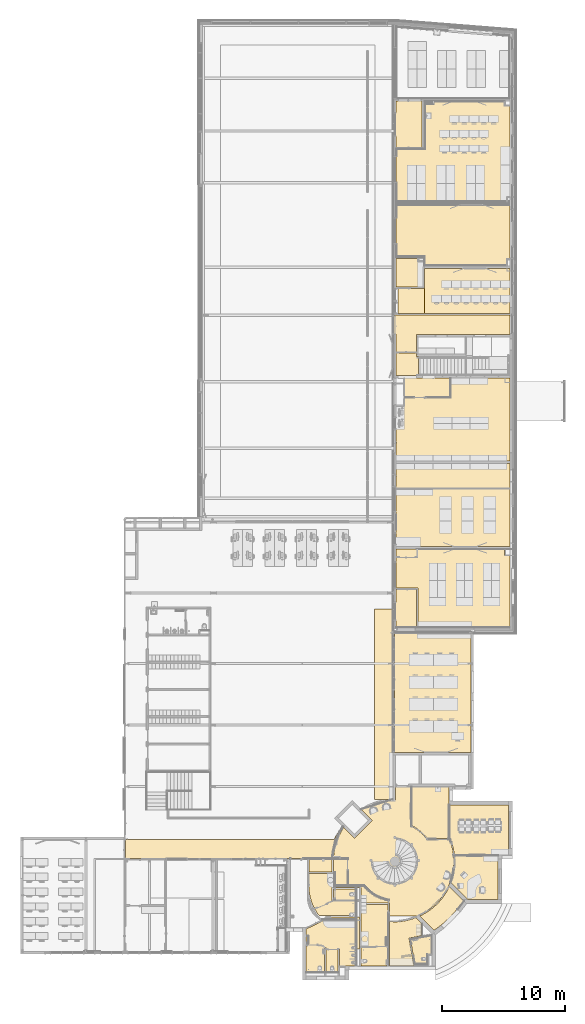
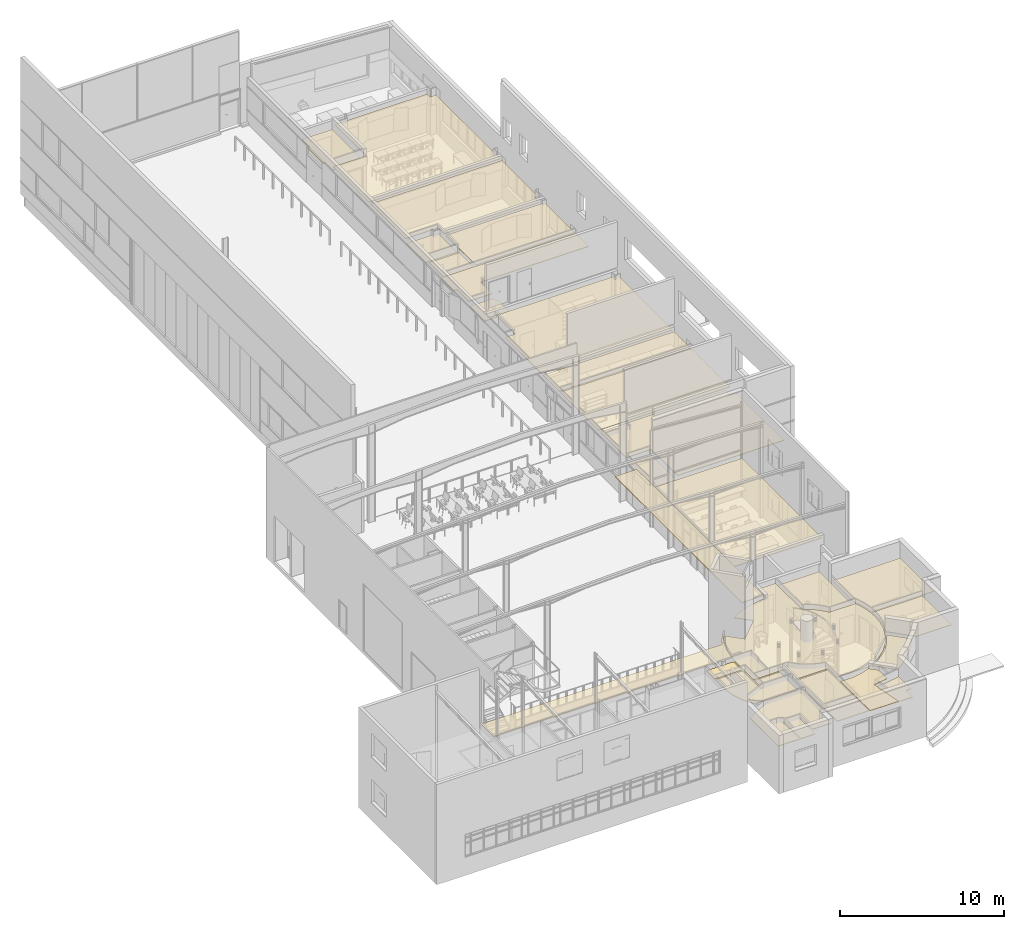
# One storey, part 108 of 137: 29 coverings.
"""IFC2X3 building model written with IfcOpenShell, lengths in centimetres."""

from ifc_helpers import new_model, entity, si_unit, converted_unit, derived_unit, direction, frame, frame_2d, origin, origin_2d_with_axis, place, context, subcontext, project, spatial, polyline, circle_curve, parameter, trimmed, segment, composite_curve, rectangle, outline, extrude, material, layer, layer_set, layer_usage, element, save


model = new_model("IFC2X3")

# Units and contexts
model_context = context("Model", 3, precision=0.001, world=origin(), true_north=direction((6.12303176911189e-17, 1.0)))
body_context = subcontext(model_context, "Body", "Model", "MODEL_VIEW")
ifc_project = project(units=[si_unit("LENGTHUNIT", "METRE", prefix="CENTI"), si_unit("AREAUNIT", "SQUARE_METRE"), si_unit("VOLUMEUNIT", "CUBIC_METRE"), converted_unit("PLANEANGLEUNIT", "DEGREE", entity("IfcRatioMeasure", 0.0174532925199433), si_unit("PLANEANGLEUNIT", "RADIAN"), dimensions=[0, 0, 0, 0, 0, 0, 0]), si_unit("MASSUNIT", "GRAM", prefix="KILO"), si_unit("TIMEUNIT", "SECOND"), si_unit("FREQUENCYUNIT", "HERTZ"), si_unit("THERMODYNAMICTEMPERATUREUNIT", "DEGREE_CELSIUS"), derived_unit("THERMALTRANSMITTANCEUNIT", [(si_unit("MASSUNIT", "GRAM", prefix="KILO"), 1), (si_unit("THERMODYNAMICTEMPERATUREUNIT", "KELVIN"), -1), (si_unit("TIMEUNIT", "SECOND"), -3)]), derived_unit("VOLUMETRICFLOWRATEUNIT", [(si_unit("LENGTHUNIT", "METRE"), 3), (si_unit("TIMEUNIT", "SECOND"), -1)]), si_unit("ELECTRICCURRENTUNIT", "AMPERE"), si_unit("ELECTRICVOLTAGEUNIT", "VOLT"), si_unit("POWERUNIT", "WATT"), si_unit("FORCEUNIT", "NEWTON", prefix="KILO"), si_unit("ILLUMINANCEUNIT", "LUX"), si_unit("LUMINOUSFLUXUNIT", "LUMEN"), si_unit("LUMINOUSINTENSITYUNIT", "CANDELA"), derived_unit("USERDEFINED", [(si_unit("MASSUNIT", "GRAM", prefix="KILO"), -1), (si_unit("LENGTHUNIT", "METRE"), -2), (si_unit("TIMEUNIT", "SECOND"), 3), (si_unit("LUMINOUSFLUXUNIT", "LUMEN"), 1)]), derived_unit("LINEARVELOCITYUNIT", [(si_unit("LENGTHUNIT", "METRE"), 1), (si_unit("TIMEUNIT", "SECOND"), -1)]), si_unit("PRESSUREUNIT", "PASCAL"), derived_unit("USERDEFINED", [(si_unit("LENGTHUNIT", "METRE"), -2), (si_unit("MASSUNIT", "GRAM", prefix="KILO"), 1), (si_unit("TIMEUNIT", "SECOND"), -2)])], contexts=[model_context])

# Site, building, storey, space
site_placement = place(None, frame((8.62739174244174, -249.285249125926, 0.0)))
site = spatial("IfcSite", under=ifc_project, at=site_placement, Name="Default", CompositionType="ELEMENT")
building_placement = place(site_placement, origin())
building = spatial("IfcBuilding", under=site, at=building_placement, CompositionType="ELEMENT")
storey_placement = place(building_placement, origin())
storey = spatial("IfcBuildingStorey", under=building, at=storey_placement, Name="RDC", CompositionType="ELEMENT", Elevation=-8.82465566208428e-11)
space_1_placement = place(storey_placement, origin())
space_1 = spatial("IfcSpace", under=storey, at=space_1_placement, Name="084", CompositionType="ELEMENT", InteriorOrExteriorSpace="INTERNAL")

# Covering
ifc_material_1 = material(Name="Maçonnerie - Isolant_MU")
ifc_layer_1 = layer(ifc_material_1, 5.0)
ifc_layer_set_1 = layer_set([ifc_layer_1], Name="Plafond composé:Plafond avec isolation")
ifc_layer_usage_1 = layer_usage(ifc_layer_set_1, "AXIS3", "NEGATIVE", 0.0)
covering_1_placement = place(space_1_placement, origin())
element("IfcCovering", 1, at=covering_1_placement, inside=space_1, material=ifc_layer_usage_1, Name="Plafond composé:Plafond avec isolation", ObjectType="Plafond composé:Plafond avec isolation", PredefinedType="CEILING", context=body_context, shape_type="SweptSolid", body=[
    extrude(outline(composite_curve([segment(polyline([(-170.400000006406, -200.035961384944), (-60.3999999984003, -200.035961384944)]), True, "CONTINUOUS"), segment(trimmed(circle_curve(frame_2d((-67.8958975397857, 188.256204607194), x_axis=(0.0, 1.0)), 388.364512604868), [parameter(181.105945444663)], [parameter(218.073956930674)], True, "PARAMETER"), True, "CONTINUOUS"), segment(polyline([(171.600000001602, -117.47032304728), (171.600000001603, 179.964038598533)]), True, "CONTINUOUS"), segment(polyline([(171.600000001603, 179.964038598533), (49.6000000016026, 179.964038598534)]), True, "CONTINUOUS"), segment(polyline([(49.6000000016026, 179.964038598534), (-45.3999999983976, 179.964038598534)]), True, "CONTINUOUS"), segment(polyline([(-45.3999999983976, 179.964038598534), (-45.3999999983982, -0.587467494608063)]), True, "CONTINUOUS"), segment(polyline([(-45.3999999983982, -0.587467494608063), (49.6000000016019, -0.587467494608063)]), True, "CONTINUOUS"), segment(polyline([(49.6000000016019, -0.587467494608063), (49.6000000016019, -10.5874674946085)]), True, "CONTINUOUS"), segment(polyline([(49.6000000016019, -10.5874674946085), (-170.400000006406, -10.5874674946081)]), True, "CONTINUOUS"), segment(polyline([(-170.400000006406, -10.5874674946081), (-170.400000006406, -200.035961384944)]), True, "CONTINUOUS")], self_intersect=False)), frame((2544.94078919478, 485.728568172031, 280.0), z_axis=(0.0, 0.0, 1.0), x_axis=(0.0, -1.0, 0.0)), (0.0, 0.0, 1.0), 5.0),
])

# Space
space_2_placement = place(storey_placement, origin())
space_2 = spatial("IfcSpace", under=storey, at=space_2_placement, Name="105", CompositionType="ELEMENT", InteriorOrExteriorSpace="INTERNAL")

# Coverings
ifc_layer_usage_2 = layer_usage(ifc_layer_set_1, "AXIS3", "NEGATIVE", 0.0)
covering_2_placement = place(space_2_placement, origin())
element("IfcCovering", 2, at=covering_2_placement, inside=space_2, material=ifc_layer_usage_2, Name="Plafond composé:Plafond avec isolation", ObjectType="Plafond composé:Plafond avec isolation", PredefinedType="CEILING", context=body_context, shape_type="SweptSolid", body=[
    extrude(rectangle(XDim=189.448493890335, YDim=101.869999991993, at=frame_2d((0.0, -5.6843418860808e-14), x_axis=(1.0, 0.0))), frame((2439.62907475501, 717.063568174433, 280.0)), (0.0, 0.0, 1.0), 5.0),
])
ifc_layer_usage_3 = layer_usage(ifc_layer_set_1, "AXIS3", "NEGATIVE", 0.0)
covering_3_placement = place(storey_placement, origin())
element("IfcCovering", 3, at=covering_3_placement, inside=storey, material=ifc_layer_usage_3, Name="Plafond composé:Plafond avec isolation", ObjectType="Plafond composé:Plafond avec isolation", PredefinedType="CEILING", context=body_context, shape_type="SweptSolid", body=[
    extrude(outline(polyline([(-247.384861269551, -153.323130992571), (-97.3848612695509, -153.323130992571), (-97.3848612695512, 48.3381318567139), (-87.3848612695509, 48.3381318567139), (-87.3848612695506, -153.323130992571), (12.6151387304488, -153.323130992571), (12.6151387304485, 34.6768690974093), (22.6151387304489, 34.6768690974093), (22.6151387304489, -103.323130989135), (69.6151387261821, -103.323130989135), (85.615138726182, -103.323130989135), (154.615138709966, -103.323130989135), (154.615138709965, 34.6768690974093), (186.615138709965, 34.6768690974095), (186.615138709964, 296.825229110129), (-43.8422195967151, 296.825229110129), (-247.384861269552, 197.550849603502), (-247.384861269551, -153.323130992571)])), frame((2570.28968908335, 7.30333906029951, 280.0)), (0.0, 0.0, 1.0), 5.0),
])
ifc_layer_usage_4 = layer_usage(ifc_layer_set_1, "AXIS3", "NEGATIVE", 0.0)
covering_4_placement = place(storey_placement, origin())
element("IfcCovering", 4, at=covering_4_placement, inside=storey, material=ifc_layer_usage_4, Name="Plafond composé:Plafond avec isolation", ObjectType="Plafond composé:Plafond avec isolation", PredefinedType="CEILING", context=body_context, shape_type="SweptSolid", body=[
    extrude(rectangle(XDim=221.500000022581, YDim=501.29166378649, at=frame_2d((2.20268248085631e-13, 0.0), x_axis=(1.0, 0.0))), frame((2877.65482780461, 154.626039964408, 280.0), z_axis=(0.0, 0.0, 1.0), x_axis=(-1.0, 0.0, 0.0)), (0.0, 0.0, 1.0), 5.0),
])

# Space
space_3_placement = place(storey_placement, origin())
space_3 = spatial("IfcSpace", under=storey, at=space_3_placement, Name="103", CompositionType="ELEMENT", InteriorOrExteriorSpace="INTERNAL")

# Coverings
ifc_layer_usage_5 = layer_usage(ifc_layer_set_1, "AXIS3", "NEGATIVE", 0.0)
covering_5_placement = place(space_3_placement, origin())
element("IfcCovering", 5, at=covering_5_placement, inside=space_3, material=ifc_layer_usage_5, Name="Plafond composé:Plafond avec isolation", ObjectType="Plafond composé:Plafond avec isolation", PredefinedType="CEILING", context=body_context, shape_type="SweptSolid", body=[
    extrude(outline(polyline([(28.699635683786, -18.9072696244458), (63.6996356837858, -18.9072696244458), (63.6996356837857, 133.142160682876), (-110.154885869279, 102.486917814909), (-74.6436568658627, -98.907269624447), (28.6996356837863, -98.9072696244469), (28.699635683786, -18.9072696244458)])), frame((3280.20519212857, 19.8874776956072, 260.0)), (0.0, 0.0, 1.0), 5.0),
])
ifc_layer_usage_6 = layer_usage(ifc_layer_set_1, "AXIS3", "NEGATIVE", 0.0)
covering_6_placement = place(storey_placement, origin())
element("IfcCovering", 6, at=covering_6_placement, inside=storey, material=ifc_layer_usage_6, Name="Plafond composé:Plafond avec isolation", ObjectType="Plafond composé:Plafond avec isolation", PredefinedType="CEILING", context=body_context, shape_type="SweptSolid", body=[
    extrude(outline(composite_curve([segment(polyline([(-81.8949231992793, -169.293541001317), (82.8194099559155, -169.293541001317)]), True, "CONTINUOUS"), segment(trimmed(circle_curve(frame_2d((-751.83879933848, -6.70645899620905), x_axis=(0.707106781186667, 0.707106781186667)), 850.346332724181), [parameter(303.977117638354)], [parameter(326.945108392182)], True, "PARAMETER"), True, "CONTINUOUS"), segment(polyline([(80.094422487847, 169.293541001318), (-81.0189092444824, 169.293541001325)]), True, "CONTINUOUS"), segment(trimmed(circle_curve(frame_2d((-537.383806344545, 1.17960294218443), x_axis=(0.707106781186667, 0.707106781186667)), 486.344749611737), [parameter(294.480928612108)], [parameter(335.222593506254)], True, "PARAMETER"), False, "CONTINUOUS")], self_intersect=False)), frame((3423.1965860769, 372.016394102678, 280.0), z_axis=(0.0, 0.0, 1.0), x_axis=(0.707106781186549, -0.707106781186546, 0.0)), (0.0, 0.0, 1.0), 5.0),
])
ifc_layer_usage_7 = layer_usage(ifc_layer_set_1, "AXIS3", "NEGATIVE", 0.0)
covering_7_placement = place(storey_placement, origin())
element("IfcCovering", 7, at=covering_7_placement, inside=storey, material=ifc_layer_usage_7, Name="Plafond composé:Plafond avec isolation", ObjectType="Plafond composé:Plafond avec isolation", PredefinedType="CEILING", context=body_context, shape_type="SweptSolid", body=[
    extrude(outline(composite_curve([segment(polyline([(-197.726755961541, -185.615429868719), (157.984173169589, -185.615429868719)]), True, "CONTINUOUS"), segment(trimmed(circle_curve(frame_2d((642.135114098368, -139.473454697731), x_axis=(-1.0, 0.0)), 486.344749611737), [parameter(339.296909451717)], [parameter(5.44412736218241)], True, "PARAMETER"), False, "CONTINUOUS"), segment(polyline([(187.196094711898, 32.4617194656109), (50.2732440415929, 169.384570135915)]), True, "CONTINUOUS"), segment(polyline([(50.2732440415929, 169.384570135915), (-197.726755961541, 169.384570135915)]), True, "CONTINUOUS"), segment(polyline([(-197.726755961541, 169.384570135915), (-197.726755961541, -185.615429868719)]), True, "CONTINUOUS")], self_intersect=False)), frame((3686.17807184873, 613.364778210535, 280.0), z_axis=(0.0, 0.0, 1.0), x_axis=(-1.0, 0.0, 0.0)), (0.0, 0.0, 1.0), 5.0),
])
ifc_layer_usage_8 = layer_usage(ifc_layer_set_1, "AXIS3", "NEGATIVE", 0.0)
covering_8_placement = place(storey_placement, origin())
element("IfcCovering", 8, at=covering_8_placement, inside=storey, material=ifc_layer_usage_8, Name="Plafond composé:Plafond avec isolation", ObjectType="Plafond composé:Plafond avec isolation", PredefinedType="CEILING", context=body_context, shape_type="SweptSolid", body=[
    extrude(outline(composite_curve([segment(polyline([(-243.738200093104, -248.099837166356), (234.261799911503, -248.099837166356)]), True, "CONTINUOUS"), segment(polyline([(234.261799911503, -248.099837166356), (234.261799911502, 16.4991858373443)]), True, "CONTINUOUS"), segment(trimmed(circle_curve(frame_2d((679.12366996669, 213.042138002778), x_axis=(-1.0, 0.0)), 486.344749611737), [parameter(6.27312747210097)], [parameter(23.8361625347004)], True, "PARAMETER"), False, "CONTINUOUS"), segment(polyline([(195.691000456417, 159.90016283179), (-176.738200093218, 159.90016283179)]), True, "CONTINUOUS"), segment(polyline([(-176.738200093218, 159.90016283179), (-243.738200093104, 159.90016283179)]), True, "CONTINUOUS"), segment(polyline([(-243.738200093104, 159.90016283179), (-243.738200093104, -248.099837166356)]), True, "CONTINUOUS")], self_intersect=False)), frame((3723.16662771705, 965.880370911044, 280.0), z_axis=(0.0, 0.0, 1.0), x_axis=(-1.0, 0.0, 0.0)), (0.0, 0.0, 1.0), 5.0),
])
ifc_layer_usage_9 = layer_usage(ifc_layer_set_1, "AXIS3", "NEGATIVE", 0.0)
covering_9_placement = place(storey_placement, origin())
element("IfcCovering", 9, at=covering_9_placement, inside=storey, material=ifc_layer_usage_9, Name="Plafond composé:Plafond avec isolation", ObjectType="Plafond composé:Plafond avec isolation", PredefinedType="CEILING", context=body_context, shape_type="SweptSolid", body=[
    extrude(outline(composite_curve([segment(polyline([(-232.892468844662, 145.095907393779), (-232.892468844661, -154.904092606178)]), True, "CONTINUOUS"), segment(polyline([(-232.892468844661, -154.904092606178), (190.584115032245, -154.904092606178)]), True, "CONTINUOUS"), segment(polyline([(190.584115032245, -154.904092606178), (190.584115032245, 19.6163704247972)]), True, "CONTINUOUS"), segment(trimmed(circle_curve(frame_2d((375.476663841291, 283.242517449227), x_axis=(0.0, -1.0)), 322.00000000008), [parameter(295.405810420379)], [parameter(324.95634072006)], True, "PARAMETER"), False, "CONTINUOUS"), segment(polyline([(84.6167076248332, 145.095907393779), (-232.892468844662, 145.095907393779)]), True, "CONTINUOUS")], self_intersect=False)), frame((3327.00073519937, 1129.08773922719, 260.0), z_axis=(0.0, 0.0, -1.0), x_axis=(0.0, -1.0, 0.0)), (0.0, 0.0, -1.0), 5.0),
])
ifc_layer_usage_10 = layer_usage(ifc_layer_set_1, "AXIS3", "NEGATIVE", 0.0)
covering_10_placement = place(storey_placement, origin())
element("IfcCovering", 10, at=covering_10_placement, inside=storey, material=ifc_layer_usage_10, Name="Plafond composé:Plafond avec isolation", ObjectType="Plafond composé:Plafond avec isolation", PredefinedType="CEILING", context=body_context, shape_type="SweptSolid", body=[
    extrude(outline(composite_curve([segment(polyline([(-513.889026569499, -103.934470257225), (-513.889026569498, -230.081080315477)]), True, "CONTINUOUS"), segment(polyline([(-513.889026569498, -230.081080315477), (-191.920953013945, -230.081080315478)]), True, "CONTINUOUS"), segment(trimmed(circle_curve(frame_2d((94.4801061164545, -98.9344702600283), x_axis=(0.0, -1.0)), 315.00000000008), [parameter(294.603633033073)], [parameter(325.615883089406)], True, "PARAMETER"), True, "CONTINUOUS"), segment(polyline([(-83.4124426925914, -358.894546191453), (-83.412442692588, -544.022612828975)]), True, "CONTINUOUS"), segment(trimmed(circle_curve(frame_2d((95.2529485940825, -99.2192102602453), x_axis=(0.0, -1.0)), 479.344749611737), [parameter(338.116017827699)], [parameter(67.4937223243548)], True, "PARAMETER"), True, "CONTINUOUS"), segment(polyline([(538.089650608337, -282.705025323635), (538.089650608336, -53.581080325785)]), True, "CONTINUOUS"), segment(polyline([(538.089650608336, -53.581080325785), (432.819309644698, -53.581080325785)]), True, "CONTINUOUS"), segment(polyline([(432.819309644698, -53.581080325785), (432.819309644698, 177.918919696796)]), True, "CONTINUOUS"), segment(polyline([(432.819309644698, 177.918919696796), (306.962613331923, 177.918919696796)]), True, "CONTINUOUS"), segment(polyline([(306.962613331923, 177.918919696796), (306.962613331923, 400.470425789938)]), True, "CONTINUOUS"), segment(polyline([(306.962613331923, 400.470425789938), (77.6385333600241, 400.470425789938)]), True, "CONTINUOUS"), segment(trimmed(circle_curve(frame_2d((95.2529485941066, -99.2192102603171), x_axis=(0.0, -1.0)), 500.000000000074), [parameter(182.01888104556)], [parameter(213.805505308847)], True, "PARAMETER"), True, "CONTINUOUS"), segment(polyline([(-182.934780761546, 316.246296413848), (-95.8693068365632, 229.180822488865)]), True, "CONTINUOUS"), segment(polyline([(-95.8693068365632, 229.180822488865), (-238.704876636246, 86.345252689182)]), True, "CONTINUOUS"), segment(polyline([(-238.704876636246, 86.345252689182), (-324.624007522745, 172.264383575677)]), True, "CONTINUOUS"), segment(trimmed(circle_curve(frame_2d((95.2529485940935, -99.219210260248), x_axis=(0.0, -1.0)), 500.000000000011), [parameter(237.114142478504)], [parameter(270.540337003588)], True, "PARAMETER"), True, "CONTINUOUS"), segment(polyline([(-404.72481723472, -103.934470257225), (-513.889026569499, -103.934470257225)]), True, "CONTINUOUS")], self_intersect=False)), frame((2944.82374749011, 848.091181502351, 280.0), z_axis=(0.0, 0.0, -1.0), x_axis=(0.0, -1.0, 0.0)), (0.0, 0.0, -1.0), 5.0),
])
ifc_layer_usage_11 = layer_usage(ifc_layer_set_1, "AXIS3", "NEGATIVE", 0.0)
covering_11_placement = place(storey_placement, origin())
element("IfcCovering", 11, at=covering_11_placement, inside=storey, material=ifc_layer_usage_11, Name="Plafond composé:Plafond avec isolation", ObjectType="Plafond composé:Plafond avec isolation", PredefinedType="CEILING", context=body_context, shape_type="SweptSolid", body=[
    extrude(rectangle(XDim=623.000000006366, YDim=975.999999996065, at=frame_2d((0.0, 2.27373675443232e-13), x_axis=(1.0, 0.0))), frame((3351.40482780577, 2128.98020807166, 280.0), z_axis=(0.0, 0.0, 1.0), x_axis=(-1.0, 0.0, 0.0)), (0.0, 0.0, 1.0), 5.0),
])
ifc_layer_usage_12 = layer_usage(ifc_layer_set_1, "AXIS3", "NEGATIVE", 0.0)
covering_12_placement = place(storey_placement, origin())
element("IfcCovering", 12, at=covering_12_placement, inside=storey, material=ifc_layer_usage_12, Name="Plafond composé:Plafond avec isolation", ObjectType="Plafond composé:Plafond avec isolation", PredefinedType="CEILING", context=body_context, shape_type="SweptSolid", body=[
    extrude(outline(polyline([(-39.0, -143.683928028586), (127.0, -143.683928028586), (127.0, 166.316071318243), (-39.0, 166.316071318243), (-39.0, 60.1839283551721), (-49.0, 60.183928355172), (-49.0, -82.8160716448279), (-39.0, -82.8160716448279), (-39.0, -143.683928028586)])), frame((3092.90482779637, 2798.66413609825, 250.0)), (0.0, 0.0, 1.0), 5.0),
])
ifc_layer_usage_13 = layer_usage(ifc_layer_set_1, "AXIS3", "NEGATIVE", 0.0)
covering_13_placement = place(storey_placement, origin())
element("IfcCovering", 13, at=covering_13_placement, inside=storey, material=ifc_layer_usage_13, Name="Plafond composé:Plafond avec isolation", ObjectType="Plafond composé:Plafond avec isolation", PredefinedType="CEILING", context=body_context, shape_type="SweptSolid", body=[
    extrude(outline(polyline([(-371.863343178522, -593.33333334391), (300.93167158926, -593.33333334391), (300.931671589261, 261.666666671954), (70.9316715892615, 261.666666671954), (70.9316715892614, 331.666666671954), (-371.86334317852, 331.666666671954), (-371.863343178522, -593.33333334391)])), frame((3385.57149446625, 4382.04853654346, 280.0), z_axis=(0.0, 0.0, 1.0), x_axis=(0.0, 1.0, 0.0)), (0.0, 0.0, 1.0), 5.0),
])

# Space
space_4_placement = place(storey_placement, origin())
space_4 = spatial("IfcSpace", under=storey, at=space_4_placement, Name="129", CompositionType="ELEMENT", InteriorOrExteriorSpace="INTERNAL")

# Coverings
ifc_layer_usage_14 = layer_usage(ifc_layer_set_1, "AXIS3", "NEGATIVE", 0.0)
covering_14_placement = place(space_4_placement, origin())
element("IfcCovering", 14, at=covering_14_placement, inside=space_4, material=ifc_layer_usage_14, Name="Plafond composé:Plafond avec isolation", ObjectType="Plafond composé:Plafond avec isolation", PredefinedType="CEILING", context=body_context, shape_type="SweptSolid", body=[
    extrude(outline(polyline([(-50.3329366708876, -70.3328664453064), (115.667063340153, -70.3328664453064), (115.666010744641, 112.667192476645), (-65.3339656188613, 112.666151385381), (-65.3330740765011, -42.3338486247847), (-50.333097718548, -42.3337623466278), (-50.3329366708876, -70.3328664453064)])), frame((3169.57148658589, 4815.64673530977, 250.0), z_axis=(0.0, 0.0, 1.0), x_axis=(-1.0, 5.75188619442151e-06, 0.0)), (0.0, 0.0, 1.0), 5.0),
])
ifc_layer_usage_15 = layer_usage(ifc_layer_set_1, "AXIS3", "NEGATIVE", 0.0)
covering_15_placement = place(storey_placement, origin())
element("IfcCovering", 15, at=covering_15_placement, inside=storey, material=ifc_layer_usage_15, Name="Plafond composé:Plafond avec isolation", ObjectType="Plafond composé:Plafond avec isolation", PredefinedType="CEILING", context=body_context, shape_type="SweptSolid", body=[
    extrude(outline(polyline([(-267.249152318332, -147.376373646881), (-101.249152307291, -147.376373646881), (-101.249969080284, -5.37547774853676), (657.75003091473, -5.37111206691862), (657.74911061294, 154.628887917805), (-289.250889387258, 154.623440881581), (-289.249989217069, -1.87655911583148), (-267.249989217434, -1.87643257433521), (-267.249152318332, -147.376373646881)])), frame((3321.15482780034, 5043.3551035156, 280.0)), (0.0, 0.0, 1.0), 5.0),
])
ifc_layer_usage_16 = layer_usage(ifc_layer_set_1, "AXIS3", "NEGATIVE", 0.0)
covering_16_placement = place(storey_placement, origin())
element("IfcCovering", 16, at=covering_16_placement, inside=storey, material=ifc_layer_usage_16, Name="Plafond composé:Plafond avec isolation", ObjectType="Plafond composé:Plafond avec isolation", PredefinedType="CEILING", context=body_context, shape_type="SweptSolid", body=[
    extrude(rectangle(XDim=219.000000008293, YDim=234.999999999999, at=origin_2d_with_axis()), frame((3163.40482779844, 5539.98020813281, 250.0)), (0.0, 0.0, 1.0), 5.0),
])
ifc_layer_usage_17 = layer_usage(ifc_layer_set_1, "AXIS3", "NEGATIVE", 0.0)
covering_17_placement = place(storey_placement, origin())
element("IfcCovering", 17, at=covering_17_placement, inside=storey, material=ifc_layer_usage_17, Name="Plafond composé:Plafond avec isolation", ObjectType="Plafond composé:Plafond avec isolation", PredefinedType="CEILING", context=body_context, shape_type="SweptSolid", body=[
    extrude(outline(polyline([(-49.2499999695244, -186.250009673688), (162.749999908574, -186.250009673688), (162.749999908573, 188.750009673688), (-49.2499999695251, 188.750009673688), (-49.2499999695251, 94.25), (-64.2499999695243, 94.25), (-64.2499999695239, -96.7499999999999), (-49.2499999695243, -96.7499999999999), (-49.2499999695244, -186.250009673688)])), frame((3103.15482776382, 6746.23019846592, 250.0)), (0.0, 0.0, 1.0), 5.0),
])

# Space
space_5_placement = place(storey_placement, origin())
space_5 = spatial("IfcSpace", under=storey, at=space_5_placement, Name="128", CompositionType="ELEMENT", InteriorOrExteriorSpace="INTERNAL")

# Coverings
ifc_layer_usage_18 = layer_usage(ifc_layer_set_1, "AXIS3", "NEGATIVE", 0.0)
covering_18_placement = place(space_5_placement, origin())
element("IfcCovering", 18, at=covering_18_placement, inside=space_5, material=ifc_layer_usage_18, Name="Plafond composé:Plafond avec isolation", ObjectType="Plafond composé:Plafond avec isolation", PredefinedType="CEILING", context=body_context, shape_type="SweptSolid", body=[
    extrude(outline(polyline([(22.8688828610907, -335.0), (342.86888220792, -335.0), (342.868882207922, 122.0), (342.868882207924, 414.0), (-241.836103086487, 414.0), (-241.836103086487, 371.0), (-295.336103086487, 371.0), (-295.336103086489, -511.0), (22.8688828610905, -511.0), (22.8688828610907, -335.0)])), frame((3564.90482779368, 2997.84909027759, 280.0), z_axis=(0.0, 0.0, 1.0), x_axis=(0.0, -1.0, 0.0)), (0.0, 0.0, 1.0), 5.0),
])
ifc_layer_usage_19 = layer_usage(ifc_layer_set_1, "AXIS3", "NEGATIVE", 0.0)
covering_19_placement = place(storey_placement, origin())
element("IfcCovering", 19, at=covering_19_placement, inside=storey, material=ifc_layer_usage_19, Name="Plafond composé:Plafond avec isolation", ObjectType="Plafond composé:Plafond avec isolation", PredefinedType="CEILING", context=body_context, shape_type="SweptSolid", body=[
    extrude(rectangle(XDim=467.000000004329, YDim=925.000000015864, at=frame_2d((1.66666666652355, 154.166666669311), x_axis=(1.0, 0.0))), frame((3670.57149447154, 3545.01852669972, 280.0), z_axis=(0.0, 0.0, 1.0), x_axis=(0.0, 1.0, 0.0)), (0.0, 0.0, 1.0), 5.0),
])
ifc_layer_usage_20 = layer_usage(ifc_layer_set_1, "AXIS3", "NEGATIVE", 0.0)
covering_20_placement = place(storey_placement, origin())
element("IfcCovering", 20, at=covering_20_placement, inside=storey, material=ifc_layer_usage_20, Name="Plafond composé:Plafond avec isolation", ObjectType="Plafond composé:Plafond avec isolation", PredefinedType="CEILING", context=body_context, shape_type="SweptSolid", body=[
    extrude(rectangle(XDim=199.999999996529, YDim=925.000000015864, at=frame_2d((9.99999999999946, 92.5000000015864), x_axis=(1.0, 0.0))), frame((3608.90482780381, 3880.18519336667, 280.0), z_axis=(0.0, 0.0, 1.0), x_axis=(0.0, 1.0, 0.0)), (0.0, 0.0, 1.0), 5.0),
])
ifc_material_2 = material(Name="Maçonnerie - Isolant")
ifc_layer_2 = layer(ifc_material_2, 3.0)
ifc_material_3 = material(Name="Faux-plafond-Trame 60x 60_MU")
ifc_layer_3 = layer(ifc_material_3, 2.0)
ifc_layer_set_2 = layer_set([ifc_layer_2, ifc_layer_3], Name="Plafond composé:Plafond 120x60")
ifc_layer_usage_21 = layer_usage(ifc_layer_set_2, "AXIS3", "NEGATIVE", 0.0)
covering_21_placement = place(storey_placement, origin())
element("IfcCovering", 21, at=covering_21_placement, inside=storey, material=ifc_layer_usage_21, Name="Plafond composé:Plafond 120x60", ObjectType="Plafond composé:Plafond 120x60", PredefinedType="CEILING", context=body_context, shape_type="SweptSolid", body=[
    extrude(rectangle(XDim=696.000000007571, YDim=367.00000000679, at=origin_2d_with_axis()), frame((3630.90482780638, 5391.48020813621, 280.0), z_axis=(0.0, 0.0, 1.0), x_axis=(-1.0, 0.0, 0.0)), (0.0, 0.0, 1.0), 5.0),
])
ifc_layer_usage_22 = layer_usage(ifc_layer_set_1, "AXIS3", "NEGATIVE", 0.0)
covering_22_placement = place(storey_placement, origin())
element("IfcCovering", 22, at=covering_22_placement, inside=storey, material=ifc_layer_usage_22, Name="Plafond composé:Plafond avec isolation", ObjectType="Plafond composé:Plafond avec isolation", PredefinedType="CEILING", context=body_context, shape_type="SweptSolid", body=[
    extrude(outline(polyline([(-559.0, 118.222222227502), (-559.0, -309.277777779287), (366.0, -309.277777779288), (366.0, -266.777777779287), (366.0, 133.722222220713), (340.0, 133.722222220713), (340.0, 190.722222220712), (-330.0, 190.722222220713), (-330.0, 118.222222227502), (-559.0, 118.222222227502)])), frame((3612.90482780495, 5785.70243036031, 280.0), z_axis=(0.0, 0.0, -1.0), x_axis=(1.0, 0.0, 0.0)), (0.0, 0.0, -1.0), 5.0),
])
ifc_layer_usage_23 = layer_usage(ifc_layer_set_1, "AXIS3", "NEGATIVE", 0.0)
covering_23_placement = place(storey_placement, origin())
element("IfcCovering", 23, at=covering_23_placement, inside=storey, material=ifc_layer_usage_23, Name="Plafond composé:Plafond avec isolation", ObjectType="Plafond composé:Plafond avec isolation", PredefinedType="CEILING", context=body_context, shape_type="SweptSolid", body=[
    extrude(outline(polyline([(-620.045454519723, -512.444091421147), (304.954545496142, -512.444091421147), (304.954545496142, -469.944091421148), (304.954545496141, 225.05590857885), (304.954545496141, 269.850923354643), (272.454545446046, 269.850923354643), (261.954545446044, 269.850923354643), (261.954545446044, 307.555908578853), (-388.045454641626, 307.555908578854), (-388.045454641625, -77.444110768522), (-620.045454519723, -77.4441107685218), (-620.045454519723, -512.444091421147)])), frame((3673.95028231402, 6627.42429956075, 280.0)), (0.0, 0.0, 1.0), 5.0),
])

# Space
space_6_placement = place(storey_placement, origin())
space_6 = spatial("IfcSpace", under=storey, at=space_6_placement, Name="097", CompositionType="ELEMENT", InteriorOrExteriorSpace="INTERNAL")

# Coverings
ifc_layer_usage_24 = layer_usage(ifc_layer_set_1, "AXIS3", "NEGATIVE", 0.0)
covering_24_placement = place(space_6_placement, origin())
element("IfcCovering", 24, at=covering_24_placement, inside=space_6, material=ifc_layer_usage_24, Name="Plafond composé:Plafond avec isolation", ObjectType="Plafond composé:Plafond avec isolation", PredefinedType="CEILING", context=body_context, shape_type="SweptSolid", body=[
    extrude(rectangle(XDim=153.350859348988, YDim=1550.0, at=frame_2d((-2.1316282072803e-13, -2.27373675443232e-13), x_axis=(1.0, 0.0))), frame((2953.22939812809, 2031.84695605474, 304.0), z_axis=(0.0, 0.0, 1.0), x_axis=(-1.0, 0.0, 0.0)), (0.0, 0.0, 1.0), 5.0),
])
ifc_layer_usage_25 = layer_usage(ifc_layer_set_1, "AXIS3", "NEGATIVE", 0.0)
covering_25_placement = place(storey_placement, origin())
element("IfcCovering", 25, at=covering_25_placement, inside=storey, material=ifc_layer_usage_25, Name="Plafond composé:Plafond avec isolation", ObjectType="Plafond composé:Plafond avec isolation", PredefinedType="CEILING", context=body_context, shape_type="SweptSolid", body=[
    extrude(rectangle(XDim=204.499999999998, YDim=212.000000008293, at=frame_2d((4.33431068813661e-13, -2.20268248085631e-13), x_axis=(1.0, 0.0))), frame((3176.90482779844, 5310.23020813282, 250.0), z_axis=(0.0, 0.0, 1.0), x_axis=(0.0, -1.0, 0.0)), (0.0, 0.0, 1.0), 5.0),
])
ifc_layer_usage_26 = layer_usage(ifc_layer_set_1, "AXIS3", "NEGATIVE", 0.0)
covering_26_placement = place(space_3_placement, origin())
element("IfcCovering", 26, at=covering_26_placement, inside=space_3, material=ifc_layer_usage_26, Name="Plafond composé:Plafond avec isolation", ObjectType="Plafond composé:Plafond avec isolation", PredefinedType="CEILING", context=body_context, shape_type="SweptSolid", body=[
    extrude(outline(composite_curve([segment(polyline([(3.15095922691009, 1.40961871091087), (106.837098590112, 1.40961871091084)]), True, "CONTINUOUS"), segment(polyline([(106.837098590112, 1.40961871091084), (124.457763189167, 101.341373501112)]), True, "CONTINUOUS"), segment(polyline([(124.457763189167, 101.341373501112), (86.2049670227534, 155.972028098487)]), True, "CONTINUOUS"), segment(trimmed(circle_curve(frame_2d((-9.84219311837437, 573.384776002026), x_axis=(0.984807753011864, -0.173648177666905)), 428.32050976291), [parameter(263.640610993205)], [parameter(292.958269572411)], True, "PARAMETER"), False, "CONTINUOUS"), segment(polyline([(-130.48355975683, 162.405312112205), (-193.318187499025, -193.947569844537)]), True, "CONTINUOUS"), segment(polyline([(-193.318187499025, -193.947569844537), (3.15095922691, -228.590381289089)]), True, "CONTINUOUS"), segment(polyline([(3.15095922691, -228.590381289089), (3.15095922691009, 1.40961871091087)]), True, "CONTINUOUS")], self_intersect=False)), frame((3155.60743559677, 128.550629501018, 277.0), z_axis=(0.0, 0.0, 1.0), x_axis=(0.984807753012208, 0.173648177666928, 0.0)), (0.0, 0.0, 1.0), 5.0),
])
ifc_layer_usage_27 = layer_usage(ifc_layer_set_1, "AXIS3", "NEGATIVE", 0.0)
covering_27_placement = place(space_3_placement, origin())
element("IfcCovering", 27, at=covering_27_placement, inside=space_3, material=ifc_layer_usage_27, Name="Plafond composé:Plafond avec isolation", ObjectType="Plafond composé:Plafond avec isolation", PredefinedType="CEILING", context=body_context, shape_type="SweptSolid", body=[
    extrude(outline(composite_curve([segment(polyline([(3.15095922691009, 1.40961871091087), (106.837098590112, 1.40961871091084)]), True, "CONTINUOUS"), segment(polyline([(106.837098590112, 1.40961871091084), (124.457763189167, 101.341373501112)]), True, "CONTINUOUS"), segment(polyline([(124.457763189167, 101.341373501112), (86.2049670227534, 155.972028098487)]), True, "CONTINUOUS"), segment(trimmed(circle_curve(frame_2d((-9.84219311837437, 573.384776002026), x_axis=(0.984807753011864, -0.173648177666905)), 428.32050976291), [parameter(263.640610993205)], [parameter(292.958269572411)], True, "PARAMETER"), False, "CONTINUOUS"), segment(polyline([(-130.48355975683, 162.405312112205), (-193.318187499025, -193.947569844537)]), True, "CONTINUOUS"), segment(polyline([(-193.318187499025, -193.947569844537), (3.15095922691, -228.590381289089)]), True, "CONTINUOUS"), segment(polyline([(3.15095922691, -228.590381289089), (3.15095922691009, 1.40961871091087)]), True, "CONTINUOUS")], self_intersect=False)), frame((3155.60743559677, 128.550629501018, 277.0), z_axis=(0.0, 0.0, 1.0), x_axis=(0.984807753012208, 0.173648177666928, 0.0)), (0.0, 0.0, 1.0), 5.0),
])
ifc_layer_usage_28 = layer_usage(ifc_layer_set_1, "AXIS3", "NEGATIVE", 0.0)
covering_28_placement = place(space_3_placement, origin())
element("IfcCovering", 28, at=covering_28_placement, inside=space_3, material=ifc_layer_usage_28, Name="Plafond composé:Plafond avec isolation", ObjectType="Plafond composé:Plafond avec isolation", PredefinedType="CEILING", context=body_context, shape_type="SweptSolid", body=[
    extrude(outline(composite_curve([segment(polyline([(-137.037719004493, -196.527576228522), (62.845778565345, -196.527576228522)]), True, "CONTINUOUS"), segment(polyline([(62.845778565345, -196.527576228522), (23.0232001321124, 29.978206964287)]), True, "CONTINUOUS"), segment(polyline([(23.0232001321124, 29.978206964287), (125.134114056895, 47.9831161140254)]), True, "CONTINUOUS"), segment(polyline([(125.134114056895, 47.9831161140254), (125.134114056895, 149.456479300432)]), True, "CONTINUOUS"), segment(polyline([(125.134114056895, 149.456479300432), (77.9759502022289, 196.614643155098)]), True, "CONTINUOUS"), segment(trimmed(circle_curve(frame_2d((-89.0950007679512, 591.007539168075), x_axis=(1.0, 0.0)), 428.320509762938), [parameter(263.371346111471)], [parameter(292.958269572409)], True, "PARAMETER"), False, "CONTINUOUS"), segment(polyline([(-138.537719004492, 165.550283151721), (-138.537719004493, -196.527576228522)]), True, "CONTINUOUS"), segment(polyline([(-138.537719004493, -196.527576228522), (-137.037719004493, -196.527576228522)]), True, "CONTINUOUS")], self_intersect=False)), frame((3135.44254682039, 100.507784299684, 277.0)), (0.0, 0.0, 1.0), 5.0),
])
ifc_layer_usage_29 = layer_usage(ifc_layer_set_1, "AXIS3", "NEGATIVE", 0.0)
covering_29_placement = place(storey_placement, origin())
element("IfcCovering", 29, at=covering_29_placement, inside=storey, material=ifc_layer_usage_29, Name="Plafond composé:Plafond avec isolation", ObjectType="Plafond composé:Plafond avec isolation", PredefinedType="CEILING", context=body_context, shape_type="SweptSolid", body=[
    extrude(outline(composite_curve([segment(polyline([(-1028.58206540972, 114.155520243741), (-1028.58206540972, -40.8444797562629)]), True, "CONTINUOUS"), segment(polyline([(-1028.58206540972, -40.8444797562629), (667.132983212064, -40.8444797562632)]), True, "CONTINUOUS"), segment(trimmed(circle_curve(frame_2d((968.465257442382, 84.9892328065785), x_axis=(1.0, 0.0)), 326.550551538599), [parameter(202.664986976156)], [parameter(225.17525386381)], True, "PARAMETER"), True, "CONTINUOUS"), segment(trimmed(circle_curve(frame_2d((1157.2481570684, 137.092719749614), x_axis=(1.0, 0.0)), 506.003662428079), [parameter(182.59811403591)], [parameter(214.104022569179)], True, "PARAMETER"), False, "CONTINUOUS"), segment(polyline([(651.76463481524, 114.155520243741), (-1028.58206540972, 114.155520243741)]), True, "CONTINUOUS")], self_intersect=False)), frame((1882.58206541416, 892.155520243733, 304.0), z_axis=(0.0, 0.0, -1.0), x_axis=(1.0, 0.0, 0.0)), (0.0, 0.0, -1.0), 5.0),
])

save(model, "model.ifc")
